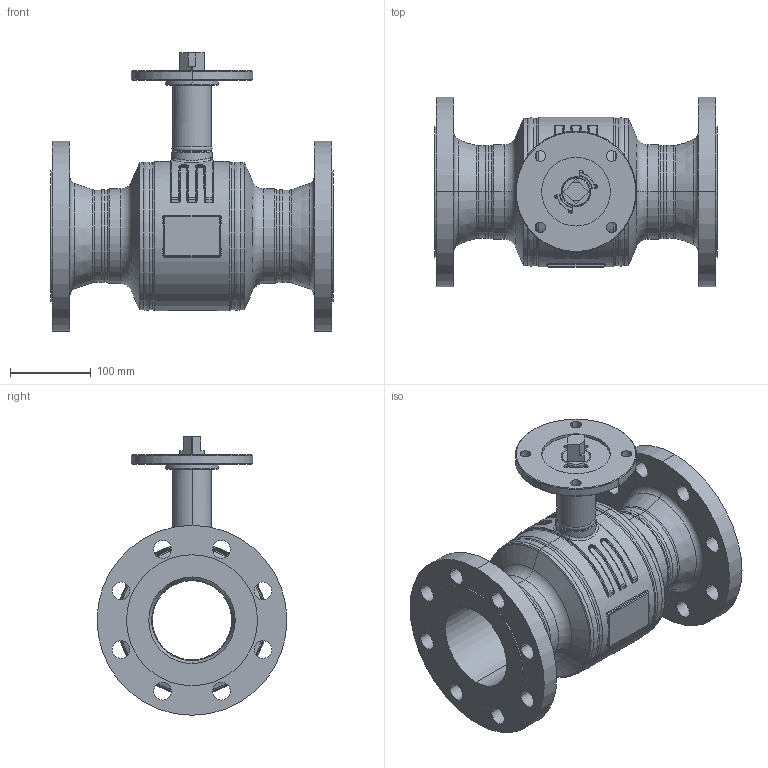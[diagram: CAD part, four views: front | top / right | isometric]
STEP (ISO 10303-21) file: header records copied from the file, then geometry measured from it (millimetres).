
FILE_DESCRIPTION((''),'2;1');
FILE_NAME('KHMO-F-V-H-100P040-VI_SW0001','2025-04-22T15:43:24',('jeitlers'),('KLINGER'),'CREO PARAMETRIC BY PTC INC, 2023014','CREO PARAMETRIC BY PTC INC, 2023014','');
FILE_SCHEMA(('CONFIG_CONTROL_DESIGN'));
Length unit declared in the file: millimetre
Products named in the file (1): KHMO-F-V-H-100P040-VI_SW0001
Bounding box: 350 x 235 x 344.5 mm (x, y, z)
Volume: 3754917.9 mm3; surface area: 800121.8 mm2
Topology: 2 solids, 2 shells, 596 faces, 1435 edges, 858 vertices
Faces by surface type: cylinder 230, torus 120, plane 108, cone 78, bspline 52, sphere 8
Entity records: 29634 total; most frequent: CARTESIAN_POINT 15592, DIRECTION 3123, ORIENTED_EDGE 2854, EDGE_CURVE 1427, AXIS2_PLACEMENT_3D 1326, VERTEX_POINT 858, CIRCLE 782, EDGE_LOOP 679
